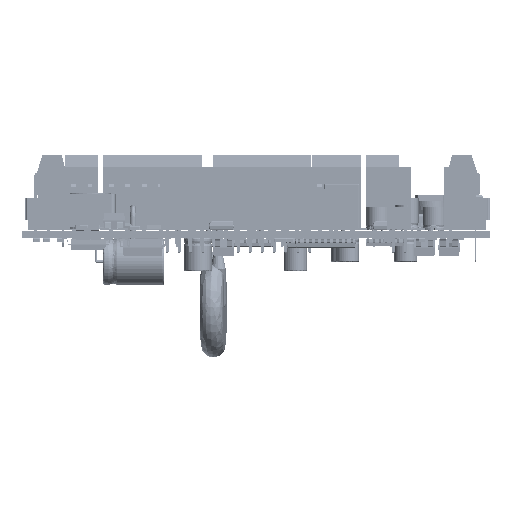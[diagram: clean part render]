
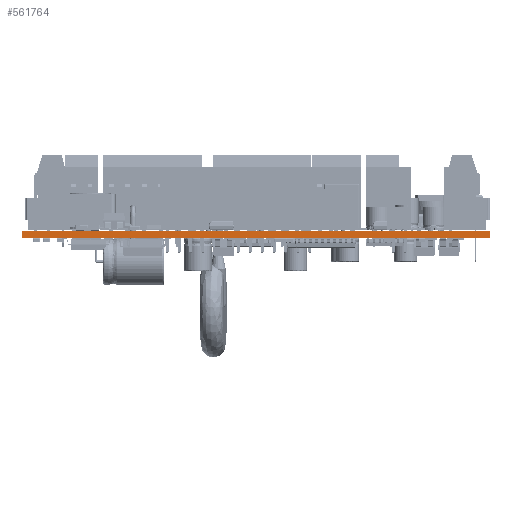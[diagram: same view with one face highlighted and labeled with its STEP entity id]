
A CAD part, left-side view. The second image highlights one B-rep face of the part: STEP entity #561764.
In plain terms, the highlighted planar face has unit normal (-1, 0, 0).
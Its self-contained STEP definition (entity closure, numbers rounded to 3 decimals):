
#561583 = PLANE('',#561584);
#561584 = AXIS2_PLACEMENT_3D('',#561585,#561586,#561587);
#561585 = CARTESIAN_POINT('',(153.162,0.,0.));
#561586 = DIRECTION('',(0.,-1.,0.));
#561587 = DIRECTION('',(-1.,0.,0.));
#561608 = VERTEX_POINT('',#561609);
#561609 = CARTESIAN_POINT('',(0.,0.,1.58));
#561623 = PLANE('',#561624);
#561624 = AXIS2_PLACEMENT_3D('',#561625,#561626,#561627);
#561625 = CARTESIAN_POINT('',(76.581,50.038,1.58));
#561626 = DIRECTION('',(-0.,-0.,-1.));
#561627 = DIRECTION('',(-1.,0.,0.));
#561635 = EDGE_CURVE('',#561636,#561608,#561638,.T.);
#561636 = VERTEX_POINT('',#561637);
#561637 = CARTESIAN_POINT('',(0.,-0.,0.));
#561638 = SURFACE_CURVE('',#561639,(#561643,#561650),.PCURVE_S1.);
#561639 = LINE('',#561640,#561641);
#561640 = CARTESIAN_POINT('',(0.,-0.,0.));
#561641 = VECTOR('',#561642,1.);
#561642 = DIRECTION('',(0.,0.,1.));
#561643 = PCURVE('',#561583,#561644);
#561644 = DEFINITIONAL_REPRESENTATION('',(#561645),#561649);
#561645 = LINE('',#561646,#561647);
#561646 = CARTESIAN_POINT('',(153.162,0.));
#561647 = VECTOR('',#561648,1.);
#561648 = DIRECTION('',(0.,-1.));
#561649 = ( GEOMETRIC_REPRESENTATION_CONTEXT(2) 
PARAMETRIC_REPRESENTATION_CONTEXT() REPRESENTATION_CONTEXT('2D SPACE',''
  ) );
#561650 = PCURVE('',#561651,#561656);
#561651 = PLANE('',#561652);
#561652 = AXIS2_PLACEMENT_3D('',#561653,#561654,#561655);
#561653 = CARTESIAN_POINT('',(0.,0.,0.));
#561654 = DIRECTION('',(-1.,0.,0.));
#561655 = DIRECTION('',(0.,1.,0.));
#561656 = DEFINITIONAL_REPRESENTATION('',(#561657),#561661);
#561657 = LINE('',#561658,#561659);
#561658 = CARTESIAN_POINT('',(0.,0.));
#561659 = VECTOR('',#561660,1.);
#561660 = DIRECTION('',(0.,-1.));
#561661 = ( GEOMETRIC_REPRESENTATION_CONTEXT(2) 
PARAMETRIC_REPRESENTATION_CONTEXT() REPRESENTATION_CONTEXT('2D SPACE',''
  ) );
#561677 = PLANE('',#561678);
#561678 = AXIS2_PLACEMENT_3D('',#561679,#561680,#561681);
#561679 = CARTESIAN_POINT('',(76.581,50.038,0.));
#561680 = DIRECTION('',(-0.,-0.,-1.));
#561681 = DIRECTION('',(-1.,0.,0.));
#561710 = PLANE('',#561711);
#561711 = AXIS2_PLACEMENT_3D('',#561712,#561713,#561714);
#561712 = CARTESIAN_POINT('',(0.,100.076,0.));
#561713 = DIRECTION('',(0.,1.,0.));
#561714 = DIRECTION('',(1.,0.,0.));
#561764 = ADVANCED_FACE('',(#561765),#561651,.T.);
#561765 = FACE_BOUND('',#561766,.T.);
#561766 = EDGE_LOOP('',(#561767,#561768,#561791,#561814));
#561767 = ORIENTED_EDGE('',*,*,#561635,.T.);
#561768 = ORIENTED_EDGE('',*,*,#561769,.T.);
#561769 = EDGE_CURVE('',#561608,#561770,#561772,.T.);
#561770 = VERTEX_POINT('',#561771);
#561771 = CARTESIAN_POINT('',(0.,100.076,1.58));
#561772 = SURFACE_CURVE('',#561773,(#561777,#561784),.PCURVE_S1.);
#561773 = LINE('',#561774,#561775);
#561774 = CARTESIAN_POINT('',(0.,0.,1.58));
#561775 = VECTOR('',#561776,1.);
#561776 = DIRECTION('',(0.,1.,0.));
#561777 = PCURVE('',#561651,#561778);
#561778 = DEFINITIONAL_REPRESENTATION('',(#561779),#561783);
#561779 = LINE('',#561780,#561781);
#561780 = CARTESIAN_POINT('',(0.,-1.58));
#561781 = VECTOR('',#561782,1.);
#561782 = DIRECTION('',(1.,0.));
#561783 = ( GEOMETRIC_REPRESENTATION_CONTEXT(2) 
PARAMETRIC_REPRESENTATION_CONTEXT() REPRESENTATION_CONTEXT('2D SPACE',''
  ) );
#561784 = PCURVE('',#561623,#561785);
#561785 = DEFINITIONAL_REPRESENTATION('',(#561786),#561790);
#561786 = LINE('',#561787,#561788);
#561787 = CARTESIAN_POINT('',(76.581,-50.038));
#561788 = VECTOR('',#561789,1.);
#561789 = DIRECTION('',(0.,1.));
#561790 = ( GEOMETRIC_REPRESENTATION_CONTEXT(2) 
PARAMETRIC_REPRESENTATION_CONTEXT() REPRESENTATION_CONTEXT('2D SPACE',''
  ) );
#561791 = ORIENTED_EDGE('',*,*,#561792,.F.);
#561792 = EDGE_CURVE('',#561793,#561770,#561795,.T.);
#561793 = VERTEX_POINT('',#561794);
#561794 = CARTESIAN_POINT('',(0.,100.076,0.));
#561795 = SURFACE_CURVE('',#561796,(#561800,#561807),.PCURVE_S1.);
#561796 = LINE('',#561797,#561798);
#561797 = CARTESIAN_POINT('',(0.,100.076,0.));
#561798 = VECTOR('',#561799,1.);
#561799 = DIRECTION('',(0.,0.,1.));
#561800 = PCURVE('',#561651,#561801);
#561801 = DEFINITIONAL_REPRESENTATION('',(#561802),#561806);
#561802 = LINE('',#561803,#561804);
#561803 = CARTESIAN_POINT('',(100.076,0.));
#561804 = VECTOR('',#561805,1.);
#561805 = DIRECTION('',(0.,-1.));
#561806 = ( GEOMETRIC_REPRESENTATION_CONTEXT(2) 
PARAMETRIC_REPRESENTATION_CONTEXT() REPRESENTATION_CONTEXT('2D SPACE',''
  ) );
#561807 = PCURVE('',#561710,#561808);
#561808 = DEFINITIONAL_REPRESENTATION('',(#561809),#561813);
#561809 = LINE('',#561810,#561811);
#561810 = CARTESIAN_POINT('',(0.,0.));
#561811 = VECTOR('',#561812,1.);
#561812 = DIRECTION('',(0.,-1.));
#561813 = ( GEOMETRIC_REPRESENTATION_CONTEXT(2) 
PARAMETRIC_REPRESENTATION_CONTEXT() REPRESENTATION_CONTEXT('2D SPACE',''
  ) );
#561814 = ORIENTED_EDGE('',*,*,#561815,.F.);
#561815 = EDGE_CURVE('',#561636,#561793,#561816,.T.);
#561816 = SURFACE_CURVE('',#561817,(#561821,#561828),.PCURVE_S1.);
#561817 = LINE('',#561818,#561819);
#561818 = CARTESIAN_POINT('',(0.,-0.,0.));
#561819 = VECTOR('',#561820,1.);
#561820 = DIRECTION('',(0.,1.,0.));
#561821 = PCURVE('',#561651,#561822);
#561822 = DEFINITIONAL_REPRESENTATION('',(#561823),#561827);
#561823 = LINE('',#561824,#561825);
#561824 = CARTESIAN_POINT('',(0.,0.));
#561825 = VECTOR('',#561826,1.);
#561826 = DIRECTION('',(1.,0.));
#561827 = ( GEOMETRIC_REPRESENTATION_CONTEXT(2) 
PARAMETRIC_REPRESENTATION_CONTEXT() REPRESENTATION_CONTEXT('2D SPACE',''
  ) );
#561828 = PCURVE('',#561677,#561829);
#561829 = DEFINITIONAL_REPRESENTATION('',(#561830),#561834);
#561830 = LINE('',#561831,#561832);
#561831 = CARTESIAN_POINT('',(76.581,-50.038));
#561832 = VECTOR('',#561833,1.);
#561833 = DIRECTION('',(0.,1.));
#561834 = ( GEOMETRIC_REPRESENTATION_CONTEXT(2) 
PARAMETRIC_REPRESENTATION_CONTEXT() REPRESENTATION_CONTEXT('2D SPACE',''
  ) );
